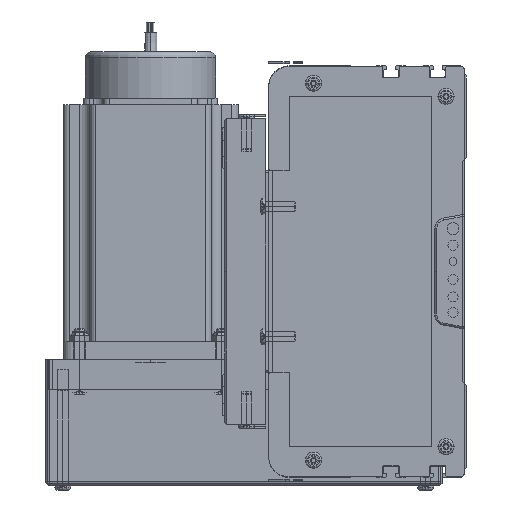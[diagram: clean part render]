
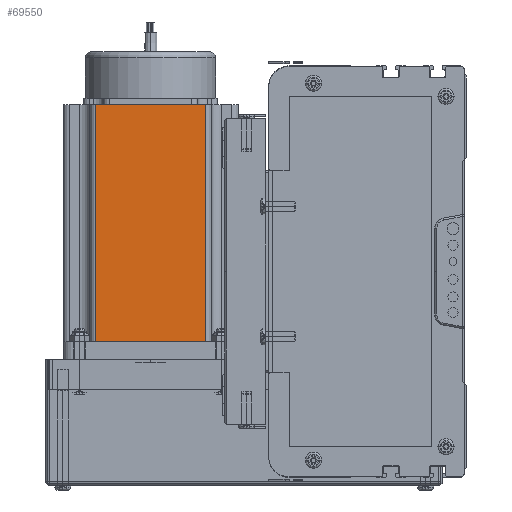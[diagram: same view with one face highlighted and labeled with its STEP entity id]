
A CAD part, left-side view. The second image highlights one B-rep face of the part: STEP entity #69550.
In plain terms, the highlighted planar face has unit normal (-1, 0, 0) as drawn and (0, -1, 0) by its records, which use the part's own axes.
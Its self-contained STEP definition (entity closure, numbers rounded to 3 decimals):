
#129 = DIRECTION ( 'NONE',  ( 0., 1., 0. ) ) ;
#132 = CARTESIAN_POINT ( 'NONE',  ( 0., 0., 116.5 ) ) ;
#145 = FACE_OUTER_BOUND ( 'NONE', #69436, .T. ) ;
#173 = PLANE ( 'NONE',  #181 ) ;
#181 = AXIS2_PLACEMENT_3D ( 'NONE', #132, #129, #246 ) ;
#246 = DIRECTION ( 'NONE',  ( 0., 0., 1. ) ) ;
#266 = DIRECTION ( 'NONE',  ( 1., 0., 0. ) ) ;
#268 = VECTOR ( 'NONE', #266, 1000. ) ;
#269 = CARTESIAN_POINT ( 'NONE',  ( 0., 0., 0. ) ) ;
#270 = CARTESIAN_POINT ( 'NONE',  ( 69.74, 0., 116.5 ) ) ;
#276 = LINE ( 'NONE', #269, #268 ) ;
#294 = CARTESIAN_POINT ( 'NONE',  ( 16.16, 0., 116.5 ) ) ;
#297 = CARTESIAN_POINT ( 'NONE',  ( 16.16, 0., 0. ) ) ;
#383 = DIRECTION ( 'NONE',  ( 1., 0., 0. ) ) ;
#384 = VECTOR ( 'NONE', #383, 1000. ) ;
#392 = CARTESIAN_POINT ( 'NONE',  ( 0., 0., 116.5 ) ) ;
#395 = LINE ( 'NONE', #392, #384 ) ;
#418 = CARTESIAN_POINT ( 'NONE',  ( 69.74, 0., 0. ) ) ;
#5255 = DIRECTION ( 'NONE',  ( 0., 0., -1. ) ) ;
#5258 = VECTOR ( 'NONE', #5255, 1000. ) ;
#5508 = DIRECTION ( 'NONE',  ( 0., 0., 1. ) ) ;
#5510 = VECTOR ( 'NONE', #5508, 1000. ) ;
#5559 = CARTESIAN_POINT ( 'NONE',  ( 69.74, 0., 116.5 ) ) ;
#5560 = LINE ( 'NONE', #5559, #5510 ) ;
#5606 = CARTESIAN_POINT ( 'NONE',  ( 16.16, 0., 116.5 ) ) ;
#5607 = LINE ( 'NONE', #5606, #5258 ) ;
#69433 = ORIENTED_EDGE ( 'NONE', *, *, #69705, .T. ) ;
#69436 = EDGE_LOOP ( 'NONE', ( #69704, #69433, #69508, #69774 ) ) ;
#69505 = VERTEX_POINT ( 'NONE', #297 ) ;
#69508 = ORIENTED_EDGE ( 'NONE', *, *, #69610, .F. ) ;
#69511 = VERTEX_POINT ( 'NONE', #294 ) ;
#69513 = EDGE_CURVE ( 'NONE', #69505, #69608, #276, .T. ) ;
#69515 = VERTEX_POINT ( 'NONE', #270 ) ;
#69550 = ADVANCED_FACE ( 'NONE', ( #145 ), #173, .F. ) ;
#69608 = VERTEX_POINT ( 'NONE', #418 ) ;
#69610 = EDGE_CURVE ( 'NONE', #69511, #69515, #395, .T. ) ;
#69671 = EDGE_CURVE ( 'NONE', #69511, #69505, #5607, .T. ) ;
#69704 = ORIENTED_EDGE ( 'NONE', *, *, #69513, .T. ) ;
#69705 = EDGE_CURVE ( 'NONE', #69608, #69515, #5560, .T. ) ;
#69774 = ORIENTED_EDGE ( 'NONE', *, *, #69671, .T. ) ;
